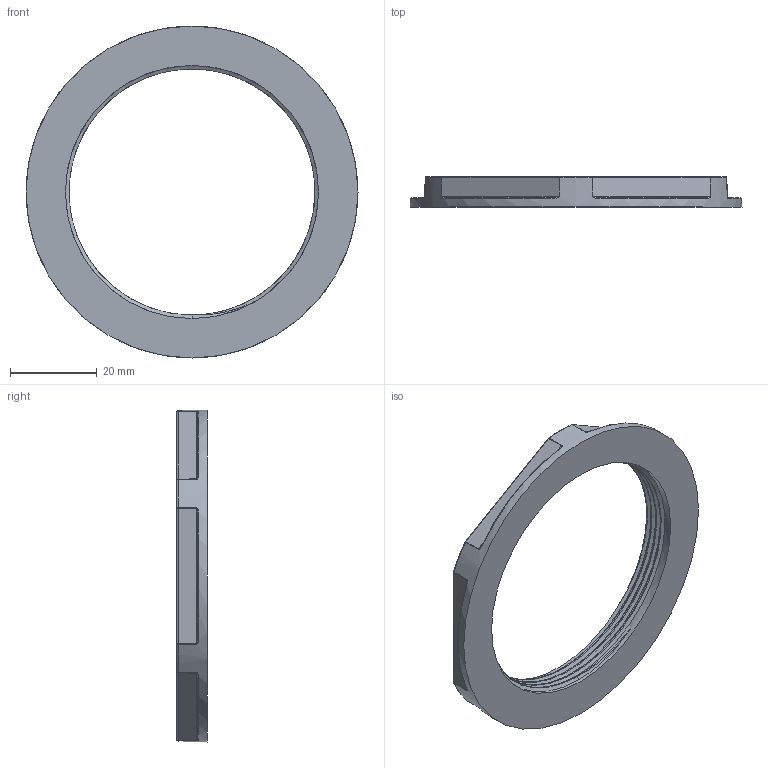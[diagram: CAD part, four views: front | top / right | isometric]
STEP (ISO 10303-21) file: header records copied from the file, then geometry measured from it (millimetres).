
FILE_DESCRIPTION (( 'STEP AP203' ), '1' );
FILE_NAME ('Ãàéêà ïðèæèìíàÿ (PG48-Ì58).STEP', '2020-08-06T09:34:59', ( '' ), ( '' ), 'SwSTEP 2.0', 'SolidWorks 2019', '' );
FILE_SCHEMA (( 'CONFIG_CONTROL_DESIGN' ));
Length unit declared in the file: millimetre
Products named in the file (1): Ãàéêà ïðèæèìíàÿ (PG48-Ì58)
Bounding box: 76.5 x 7 x 76.5 mm (x, y, z)
Volume: 11699.2 mm3; surface area: 7391.2 mm2
Topology: 1 solids, 1 shells, 86 faces, 201 edges, 105 vertices
Faces by surface type: bspline 30, cylinder 17, plane 14, torus 12, sphere 12, cone 1
Full cylindrical faces by diameter (mm): 58.35 x4
Entity records: 4373 total; most frequent: CARTESIAN_POINT 2721, ORIENTED_EDGE 348, DIRECTION 308, EDGE_CURVE 174, AXIS2_PLACEMENT_3D 141, VERTEX_POINT 96, CIRCLE 88, EDGE_LOOP 86
